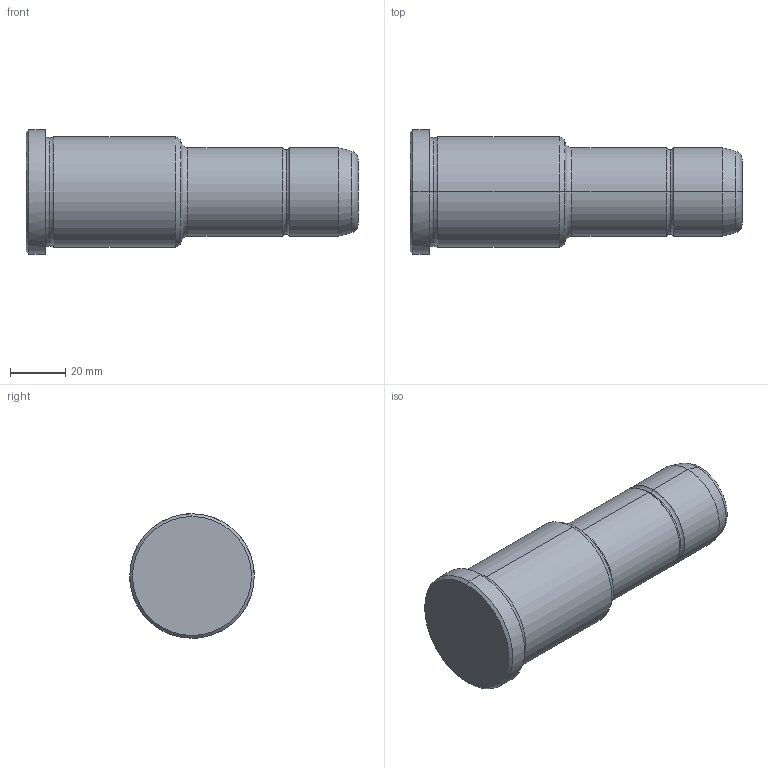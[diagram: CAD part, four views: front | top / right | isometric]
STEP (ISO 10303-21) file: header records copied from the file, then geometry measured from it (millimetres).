
FILE_DESCRIPTION(('CATIA V5 STEP Exchange'),'2;1');
FILE_NAME('C:\Users\Utente\Desktop\IO LAVORO\3D X SITO CF\X SITO\PLASTICA\351\351-32X56X120.stp','2021-09-07T12:37:50+00:00',('none'),('none'),'CATIA Version 5 Release 20 GA (IN-10)','CATIA V5 STEP AP203','none');
FILE_SCHEMA(('CONFIG_CONTROL_DESIGN'));
Length unit declared in the file: millimetre
Products named in the file (1): 351-32X56X120
Bounding box: 120 x 45 x 45 mm (x, y, z)
Volume: 123116.7 mm3; surface area: 16278.8 mm2
Topology: 1 solids, 1 shells, 30 faces, 86 edges, 60 vertices
Faces by surface type: torus 12, cylinder 8, cone 6, plane 4
Entity records: 1112 total; most frequent: CARTESIAN_POINT 289, ORIENTED_EDGE 172, DIRECTION 138, AXIS2_PLACEMENT_3D 95, EDGE_CURVE 86, CIRCLE 64, VERTEX_POINT 60, EDGE_LOOP 32
